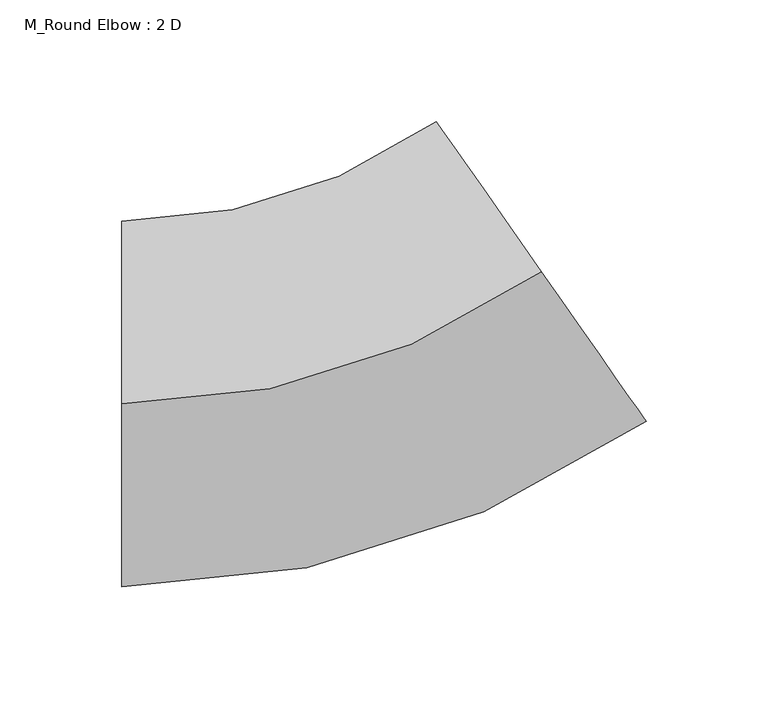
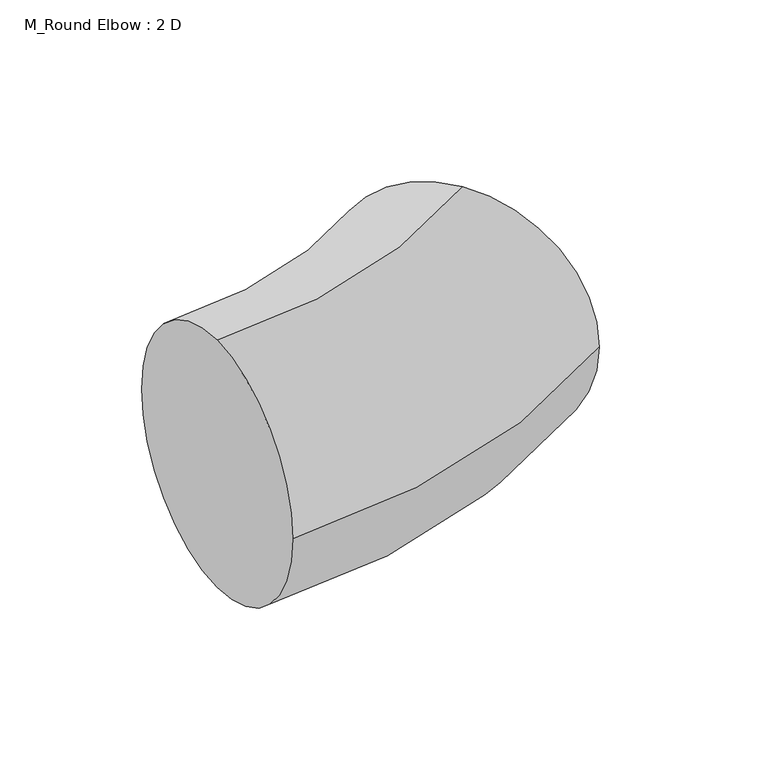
"""IFC4 building model written with IfcOpenShell, lengths in millimetres: duct fitting geometry, M_Round Elbow : 2 D."""

from ifc_helpers import new_model, si_unit, point, frame, origin, place, context, project, spatial, circle_curve, ellipse_curve, trimmed, source, transform, mapped, element, save
from ifc_brep_helpers import plane_surface, revolved_surface, advanced_brep


def m_round_elbow_2_d_e6cff9a0(model_context):
    return source(origin(), model_context, "Body", "AdvancedBrep", [
        advanced_brep(
        [(-94.5896367, 0.0, 75.0), (-94.5896367, 75.0, 0.0), (-94.5896367, 0.0, -75.0), (-94.5896367, -75.0, 0.0), (77.4832942, 54.2543867, 75.0), (120.501527, -7.1820166, 0.0), (77.4832942, 54.2543867, -75.0), (34.4650615, 115.69079, 0.0)],
        [
            (0, 1, circle_curve(frame((-94.5896367, 0.0, 0.0), z_axis=(-1.0, 0.0, 0.0), x_axis=(0.0, 1.0, 0.0)), 75.0)),
            (1, 2, circle_curve(frame((-94.5896367, 0.0, 0.0), z_axis=(-1.0, 0.0, 0.0), x_axis=(0.0, 1.0, 0.0)), 75.0)),
            (2, 3, circle_curve(frame((-94.5896367, 0.0, 0.0), z_axis=(-1.0, 0.0, 0.0), x_axis=(0.0, 1.0, 0.0)), 75.0)),
            (3, 0, circle_curve(frame((-94.5896367, 0.0, 0.0), z_axis=(-1.0, 0.0, 0.0), x_axis=(0.0, 1.0, 0.0)), 75.0)),
            (4, 5, circle_curve(frame((77.4832942, 54.2543867, 0.0), z_axis=(0.8191520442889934, 0.5735764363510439, 0.0), x_axis=(-0.5735764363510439, 0.8191520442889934, 0.0)), 75.0)),
            (5, 6, circle_curve(frame((77.4832942, 54.2543867, 0.0), z_axis=(0.8191520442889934, 0.5735764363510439, 0.0), x_axis=(-0.5735764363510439, 0.8191520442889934, 0.0)), 75.0)),
            (6, 7, circle_curve(frame((77.4832942, 54.2543867, 0.0), z_axis=(0.8191520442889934, 0.5735764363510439, 0.0), x_axis=(-0.5735764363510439, 0.8191520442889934, 0.0)), 75.0)),
            (7, 4, circle_curve(frame((77.4832942, 54.2543867, 0.0), z_axis=(0.8191520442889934, 0.5735764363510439, 0.0), x_axis=(-0.5735764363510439, 0.8191520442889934, 0.0)), 75.0)),
            (7, 1, circle_curve(frame((-94.5896367, 300.0, 0.0), z_axis=(0.0, 0.0, -1.0), x_axis=(0.0, -1.0, 0.0)), 225.0)),
            (0, 4, circle_curve(frame((-94.5896367, 300.0, 75.0), z_axis=(0.0, 0.0, 1.0), x_axis=(0.0, -1.0, 0.0)), 300.0)),
            (6, 2, circle_curve(frame((-94.5896367, 300.0, -75.0), z_axis=(0.0, 0.0, -1.0), x_axis=(0.0, -1.0, 0.0)), 300.0)),
            (5, 3, circle_curve(frame((-94.5896367, 300.0, 0.0), z_axis=(0.0, 0.0, -1.0), x_axis=(0.0, -1.0, 0.0)), 375.0)),
        ],
        [
            plane_surface(frame((-94.5896367, 0.0, 0.0), z_axis=(-1.0, 0.0, 0.0), x_axis=(0.0, 0.0, 1.0))),
            plane_surface(frame((77.4832942, 54.2543867, 0.0), z_axis=(0.8191520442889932, 0.5735764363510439, 0.0), x_axis=(0.0, 0.0, 1.0))),
            revolved_surface(trimmed(ellipse_curve(frame((-94.5896367, 0.0, 0.0), z_axis=(-1.0, 0.0, 0.0), x_axis=(0.0, 1.0, 0.0)), 75.0, 75.0), [point((-94.5896367, 0.0, 75.0))], [point((-94.5896367, 75.0, 0.0))], True, "CARTESIAN"), (-94.5896367, 300.0, 0.0), (0.0, 0.0, 1.0)),
            revolved_surface(trimmed(ellipse_curve(frame((-94.5896367, 0.0, 0.0), z_axis=(-1.0, 0.0, 0.0), x_axis=(0.0, 1.0, 0.0)), 75.0, 75.0), [point((-94.5896367, 75.0, 0.0))], [point((-94.5896367, 0.0, -75.0))], True, "CARTESIAN"), (-94.5896367, 300.0, 0.0), (0.0, 0.0, 1.0)),
            revolved_surface(trimmed(ellipse_curve(frame((-94.5896367, 0.0, 0.0), z_axis=(-1.0, 0.0, 0.0), x_axis=(0.0, 1.0, 0.0)), 75.0, 75.0), [point((-94.5896367, 0.0, -75.0))], [point((-94.5896367, -75.0, 0.0))], True, "CARTESIAN"), (-94.5896367, 300.0, 0.0), (0.0, 0.0, 1.0)),
            revolved_surface(trimmed(ellipse_curve(frame((-94.5896367, 0.0, 0.0), z_axis=(-1.0, 0.0, 0.0), x_axis=(0.0, 1.0, 0.0)), 75.0, 75.0), [point((-94.5896367, -75.0, 0.0))], [point((-94.5896367, 0.0, 75.0))], True, "CARTESIAN"), (-94.5896367, 300.0, 0.0), (0.0, 0.0, 1.0)),
        ],
        [
            (0, [[1, 2, 3, 4]]),
            (1, [[5, 6, 7, 8]]),
            (2, [[9, -1, 10, -8]]),
            (3, [[11, -2, -9, -7]]),
            (4, [[12, -3, -11, -6]]),
            (5, [[-10, -4, -12, -5]]),
        ],
    ),
        advanced_brep(
        [(-94.5896367, 0.0, 75.0), (-94.5896367, 75.0, 0.0), (-94.5896367, 0.0, -75.0), (-94.5896367, -75.0, 0.0), (77.4832942, 54.2543867, 75.0), (120.501527, -7.1820166, 0.0), (77.4832942, 54.2543867, -75.0), (34.4650615, 115.69079, 0.0)],
        [
            (0, 1, circle_curve(frame((-94.5896367, 0.0, 0.0), z_axis=(-1.0, 0.0, 0.0), x_axis=(0.0, 1.0, 0.0)), 75.0)),
            (1, 2, circle_curve(frame((-94.5896367, 0.0, 0.0), z_axis=(-1.0, 0.0, 0.0), x_axis=(0.0, 1.0, 0.0)), 75.0)),
            (2, 3, circle_curve(frame((-94.5896367, 0.0, 0.0), z_axis=(-1.0, 0.0, 0.0), x_axis=(0.0, 1.0, 0.0)), 75.0)),
            (3, 0, circle_curve(frame((-94.5896367, 0.0, 0.0), z_axis=(-1.0, 0.0, 0.0), x_axis=(0.0, 1.0, 0.0)), 75.0)),
            (4, 5, circle_curve(frame((77.4832942, 54.2543867, 0.0), z_axis=(0.8191520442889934, 0.5735764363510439, 0.0), x_axis=(-0.5735764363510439, 0.8191520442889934, 0.0)), 75.0)),
            (5, 6, circle_curve(frame((77.4832942, 54.2543867, 0.0), z_axis=(0.8191520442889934, 0.5735764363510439, 0.0), x_axis=(-0.5735764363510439, 0.8191520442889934, 0.0)), 75.0)),
            (6, 7, circle_curve(frame((77.4832942, 54.2543867, 0.0), z_axis=(0.8191520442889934, 0.5735764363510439, 0.0), x_axis=(-0.5735764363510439, 0.8191520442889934, 0.0)), 75.0)),
            (7, 4, circle_curve(frame((77.4832942, 54.2543867, 0.0), z_axis=(0.8191520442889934, 0.5735764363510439, 0.0), x_axis=(-0.5735764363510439, 0.8191520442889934, 0.0)), 75.0)),
            (7, 1, circle_curve(frame((-94.5896367, 300.0, 0.0), z_axis=(0.0, 0.0, -1.0), x_axis=(0.0, -1.0, 0.0)), 225.0)),
            (0, 4, circle_curve(frame((-94.5896367, 300.0, 75.0), z_axis=(0.0, 0.0, 1.0), x_axis=(0.0, -1.0, 0.0)), 300.0)),
            (6, 2, circle_curve(frame((-94.5896367, 300.0, -75.0), z_axis=(0.0, 0.0, -1.0), x_axis=(0.0, -1.0, 0.0)), 300.0)),
            (5, 3, circle_curve(frame((-94.5896367, 300.0, 0.0), z_axis=(0.0, 0.0, -1.0), x_axis=(0.0, -1.0, 0.0)), 375.0)),
        ],
        [
            plane_surface(frame((-94.5896367, 0.0, 0.0), z_axis=(-1.0, 0.0, 0.0), x_axis=(0.0, 0.0, 1.0))),
            plane_surface(frame((77.4832942, 54.2543867, 0.0), z_axis=(0.8191520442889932, 0.5735764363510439, 0.0), x_axis=(0.0, 0.0, 1.0))),
            revolved_surface(trimmed(ellipse_curve(frame((-94.5896367, 0.0, 0.0), z_axis=(-1.0, 0.0, 0.0), x_axis=(0.0, 1.0, 0.0)), 75.0, 75.0), [point((-94.5896367, 0.0, 75.0))], [point((-94.5896367, 75.0, 0.0))], True, "CARTESIAN"), (-94.5896367, 300.0, 0.0), (0.0, 0.0, 1.0)),
            revolved_surface(trimmed(ellipse_curve(frame((-94.5896367, 0.0, 0.0), z_axis=(-1.0, 0.0, 0.0), x_axis=(0.0, 1.0, 0.0)), 75.0, 75.0), [point((-94.5896367, 75.0, 0.0))], [point((-94.5896367, 0.0, -75.0))], True, "CARTESIAN"), (-94.5896367, 300.0, 0.0), (0.0, 0.0, 1.0)),
            revolved_surface(trimmed(ellipse_curve(frame((-94.5896367, 0.0, 0.0), z_axis=(-1.0, 0.0, 0.0), x_axis=(0.0, 1.0, 0.0)), 75.0, 75.0), [point((-94.5896367, 0.0, -75.0))], [point((-94.5896367, -75.0, 0.0))], True, "CARTESIAN"), (-94.5896367, 300.0, 0.0), (0.0, 0.0, 1.0)),
            revolved_surface(trimmed(ellipse_curve(frame((-94.5896367, 0.0, 0.0), z_axis=(-1.0, 0.0, 0.0), x_axis=(0.0, 1.0, 0.0)), 75.0, 75.0), [point((-94.5896367, -75.0, 0.0))], [point((-94.5896367, 0.0, 75.0))], True, "CARTESIAN"), (-94.5896367, 300.0, 0.0), (0.0, 0.0, 1.0)),
        ],
        [
            (0, [[1, 2, 3, 4]]),
            (1, [[5, 6, 7, 8]]),
            (2, [[9, -1, 10, -8]]),
            (3, [[11, -2, -9, -7]]),
            (4, [[12, -3, -11, -6]]),
            (5, [[-10, -4, -12, -5]]),
        ],
    ),
        advanced_brep(
        [(-94.5896367, 0.0, 75.0), (-94.5896367, 75.0, 0.0), (-94.5896367, 0.0, -75.0), (-94.5896367, -75.0, 0.0), (77.4832942, 54.2543867, 75.0), (120.501527, -7.1820166, 0.0), (77.4832942, 54.2543867, -75.0), (34.4650615, 115.69079, 0.0)],
        [
            (0, 1, circle_curve(frame((-94.5896367, 0.0, 0.0), z_axis=(-1.0, 0.0, 0.0), x_axis=(0.0, 1.0, 0.0)), 75.0)),
            (1, 2, circle_curve(frame((-94.5896367, 0.0, 0.0), z_axis=(-1.0, 0.0, 0.0), x_axis=(0.0, 1.0, 0.0)), 75.0)),
            (2, 3, circle_curve(frame((-94.5896367, 0.0, 0.0), z_axis=(-1.0, 0.0, 0.0), x_axis=(0.0, 1.0, 0.0)), 75.0)),
            (3, 0, circle_curve(frame((-94.5896367, 0.0, 0.0), z_axis=(-1.0, 0.0, 0.0), x_axis=(0.0, 1.0, 0.0)), 75.0)),
            (4, 5, circle_curve(frame((77.4832942, 54.2543867, 0.0), z_axis=(0.8191520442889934, 0.5735764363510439, 0.0), x_axis=(-0.5735764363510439, 0.8191520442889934, 0.0)), 75.0)),
            (5, 6, circle_curve(frame((77.4832942, 54.2543867, 0.0), z_axis=(0.8191520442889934, 0.5735764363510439, 0.0), x_axis=(-0.5735764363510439, 0.8191520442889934, 0.0)), 75.0)),
            (6, 7, circle_curve(frame((77.4832942, 54.2543867, 0.0), z_axis=(0.8191520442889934, 0.5735764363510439, 0.0), x_axis=(-0.5735764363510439, 0.8191520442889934, 0.0)), 75.0)),
            (7, 4, circle_curve(frame((77.4832942, 54.2543867, 0.0), z_axis=(0.8191520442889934, 0.5735764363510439, 0.0), x_axis=(-0.5735764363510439, 0.8191520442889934, 0.0)), 75.0)),
            (7, 1, circle_curve(frame((-94.5896367, 300.0, 0.0), z_axis=(0.0, 0.0, -1.0), x_axis=(0.0, -1.0, 0.0)), 225.0)),
            (0, 4, circle_curve(frame((-94.5896367, 300.0, 75.0), z_axis=(0.0, 0.0, 1.0), x_axis=(0.0, -1.0, 0.0)), 300.0)),
            (6, 2, circle_curve(frame((-94.5896367, 300.0, -75.0), z_axis=(0.0, 0.0, -1.0), x_axis=(0.0, -1.0, 0.0)), 300.0)),
            (5, 3, circle_curve(frame((-94.5896367, 300.0, 0.0), z_axis=(0.0, 0.0, -1.0), x_axis=(0.0, -1.0, 0.0)), 375.0)),
        ],
        [
            plane_surface(frame((-94.5896367, 0.0, 0.0), z_axis=(-1.0, 0.0, 0.0), x_axis=(0.0, 0.0, 1.0))),
            plane_surface(frame((77.4832942, 54.2543867, 0.0), z_axis=(0.8191520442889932, 0.5735764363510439, 0.0), x_axis=(0.0, 0.0, 1.0))),
            revolved_surface(trimmed(ellipse_curve(frame((-94.5896367, 0.0, 0.0), z_axis=(-1.0, 0.0, 0.0), x_axis=(0.0, 1.0, 0.0)), 75.0, 75.0), [point((-94.5896367, 0.0, 75.0))], [point((-94.5896367, 75.0, 0.0))], True, "CARTESIAN"), (-94.5896367, 300.0, 0.0), (0.0, 0.0, 1.0)),
            revolved_surface(trimmed(ellipse_curve(frame((-94.5896367, 0.0, 0.0), z_axis=(-1.0, 0.0, 0.0), x_axis=(0.0, 1.0, 0.0)), 75.0, 75.0), [point((-94.5896367, 75.0, 0.0))], [point((-94.5896367, 0.0, -75.0))], True, "CARTESIAN"), (-94.5896367, 300.0, 0.0), (0.0, 0.0, 1.0)),
            revolved_surface(trimmed(ellipse_curve(frame((-94.5896367, 0.0, 0.0), z_axis=(-1.0, 0.0, 0.0), x_axis=(0.0, 1.0, 0.0)), 75.0, 75.0), [point((-94.5896367, 0.0, -75.0))], [point((-94.5896367, -75.0, 0.0))], True, "CARTESIAN"), (-94.5896367, 300.0, 0.0), (0.0, 0.0, 1.0)),
            revolved_surface(trimmed(ellipse_curve(frame((-94.5896367, 0.0, 0.0), z_axis=(-1.0, 0.0, 0.0), x_axis=(0.0, 1.0, 0.0)), 75.0, 75.0), [point((-94.5896367, -75.0, 0.0))], [point((-94.5896367, 0.0, 75.0))], True, "CARTESIAN"), (-94.5896367, 300.0, 0.0), (0.0, 0.0, 1.0)),
        ],
        [
            (0, [[1, 2, 3, 4]]),
            (1, [[5, 6, 7, 8]]),
            (2, [[9, -1, 10, -8]]),
            (3, [[11, -2, -9, -7]]),
            (4, [[12, -3, -11, -6]]),
            (5, [[-10, -4, -12, -5]]),
        ],
    ),
    ])


if __name__ == "__main__":
    model = new_model("IFC4")
    model_context = context("Model", 3, world=origin())
    ifc_project = project(units=[si_unit("LENGTHUNIT", "METRE", prefix="MILLI")], contexts=[model_context])
    site = spatial("IfcSite", under=ifc_project)
    building = spatial("IfcBuilding", under=site)
    placement = place(None, origin())
    m_round_elbow_2_d_shape = m_round_elbow_2_d_e6cff9a0(model_context)
    element("IfcDuctFitting", 1, ObjectType="M_Round Elbow : 2 D", at=placement, inside=building, context=model_context, shape_type="MappedRepresentation", body=[
        mapped(m_round_elbow_2_d_shape, transform((0.0, 0.0, 0.0), x_axis=(1.0, 0.0, 0.0), y_axis=(0.0, 1.0, 0.0), z_axis=(0.0, 0.0, 1.0))),
    ])
    save(model, "model.ifc")
